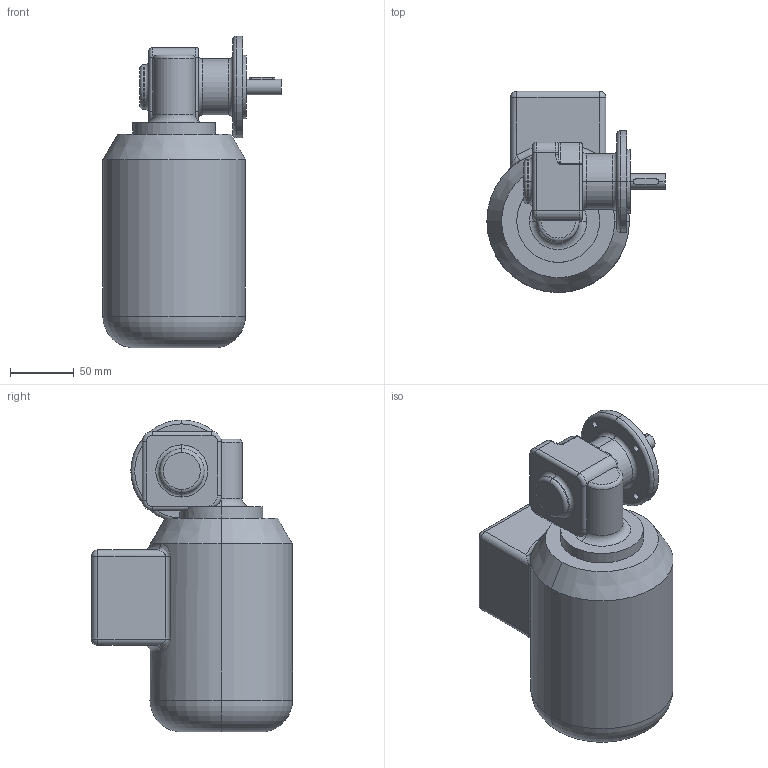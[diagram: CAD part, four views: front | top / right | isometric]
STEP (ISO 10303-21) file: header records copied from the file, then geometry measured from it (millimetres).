
FILE_DESCRIPTION (( 'STEP AP203' ), '1' );
FILE_NAME ('SN5FR-90,120W-A.STEP', '2007-09-13T06:20:11', ( ' ' ), ( ' ' ), 'SwSTEP 2.0', 'SolidWorks 2006233', '' );
FILE_SCHEMA (( 'CONFIG_CONTROL_DESIGN' ));
Length unit declared in the file: millimetre
Products named in the file (3): BG56of_Standard; SN5FR-90,120W-A; SN5FR-Lose_Standard
Assembly tree (2 placements, depth 2):
  SN5FR-90,120W-A
    BG56of_Standard
    SN5FR-Lose_Standard
Bounding box: 140 x 158 x 245 mm (x, y, z)
Volume: 2145983.7 mm3; surface area: 123053.8 mm2
Topology: 2 solids, 2 shells, 138 faces, 315 edges, 180 vertices
Faces by surface type: cylinder 61, torus 32, plane 27, sphere 8, bspline 8, cone 2
Entity records: 5048 total; most frequent: CARTESIAN_POINT 1632, DIRECTION 721, ORIENTED_EDGE 618, EDGE_CURVE 309, AXIS2_PLACEMENT_3D 309, VERTEX_POINT 180, CIRCLE 174, EDGE_LOOP 151
